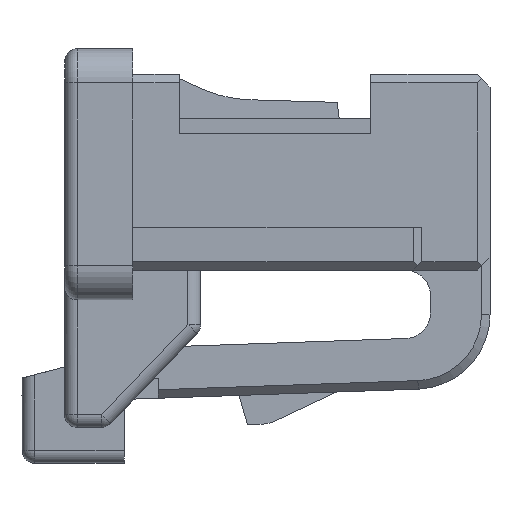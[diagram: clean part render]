
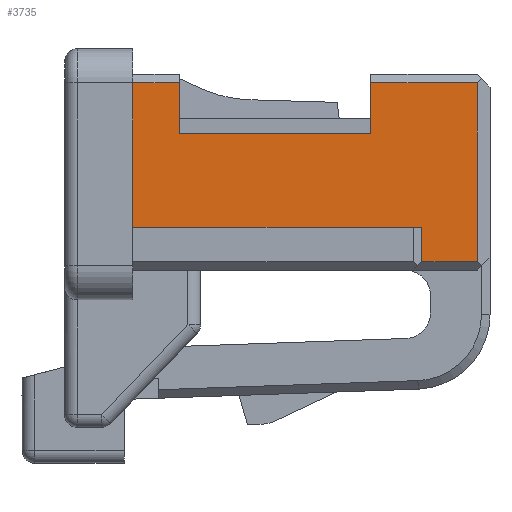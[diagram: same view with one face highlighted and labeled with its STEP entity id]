
A CAD part, left-side view. The second image highlights one B-rep face of the part: STEP entity #3735.
In plain terms, the highlighted planar face has unit normal (-1, 0, 0).
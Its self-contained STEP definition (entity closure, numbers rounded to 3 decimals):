
#59 = AXIS2_PLACEMENT_3D ( 'NONE', #7433, #16123, #2720 ) ;
#617 = ORIENTED_EDGE ( 'NONE', *, *, #10504, .F. ) ;
#942 = VERTEX_POINT ( 'NONE', #2935 ) ;
#1344 = LINE ( 'NONE', #27166, #8431 ) ;
#1412 = VECTOR ( 'NONE', #27769, 1000. ) ;
#2274 = VERTEX_POINT ( 'NONE', #16010 ) ;
#2519 = DIRECTION ( 'NONE',  ( 0., -1., 0. ) ) ;
#2720 = DIRECTION ( 'NONE',  ( 0., 0., 1. ) ) ;
#2935 = CARTESIAN_POINT ( 'NONE',  ( -4.19, -2.8, 1.075 ) ) ;
#3444 = VECTOR ( 'NONE', #2519, 1000. ) ;
#3735 = ADVANCED_FACE ( 'NONE', ( #9859 ), #26978, .T. ) ;
#4110 = VECTOR ( 'NONE', #24183, 1000. ) ;
#4328 = ORIENTED_EDGE ( 'NONE', *, *, #8657, .T. ) ;
#4790 = LINE ( 'NONE', #22050, #16471 ) ;
#4815 = EDGE_CURVE ( 'NONE', #20733, #12115, #4790, .T. ) ;
#5631 = DIRECTION ( 'NONE',  ( 0., 0., 1. ) ) ;
#5935 = VERTEX_POINT ( 'NONE', #25232 ) ;
#6074 = VECTOR ( 'NONE', #16903, 1000. ) ;
#6577 = VERTEX_POINT ( 'NONE', #23676 ) ;
#7246 = EDGE_CURVE ( 'NONE', #11245, #6577, #26059, .T. ) ;
#7433 = CARTESIAN_POINT ( 'NONE',  ( -4.19, 0., 1.175 ) ) ;
#7497 = DIRECTION ( 'NONE',  ( 0., 0., -1. ) ) ;
#8431 = VECTOR ( 'NONE', #5631, 1000. ) ;
#8646 = ORIENTED_EDGE ( 'NONE', *, *, #24535, .T. ) ;
#8657 = EDGE_CURVE ( 'NONE', #11245, #5935, #18933, .T. ) ;
#9053 = CARTESIAN_POINT ( 'NONE',  ( -4.19, 0., 1.075 ) ) ;
#9271 = EDGE_LOOP ( 'NONE', ( #13868, #21422, #21360, #4328, #20561, #10724, #617, #20898, #15170, #8646 ) ) ;
#9628 = CARTESIAN_POINT ( 'NONE',  ( -4.19, -3.4, -0.625 ) ) ;
#9859 = FACE_OUTER_BOUND ( 'NONE', #9271, .T. ) ;
#10304 = CARTESIAN_POINT ( 'NONE',  ( -4.19, 0., -0.625 ) ) ;
#10504 = EDGE_CURVE ( 'NONE', #2274, #20733, #21600, .T. ) ;
#10724 = ORIENTED_EDGE ( 'NONE', *, *, #4815, .F. ) ;
#10743 = CARTESIAN_POINT ( 'NONE',  ( -4.19, -3.4, -0.625 ) ) ;
#11245 = VERTEX_POINT ( 'NONE', #18324 ) ;
#12115 = VERTEX_POINT ( 'NONE', #9053 ) ;
#13179 = CARTESIAN_POINT ( 'NONE',  ( -4.19, -3.4, -1.025 ) ) ;
#13729 = VERTEX_POINT ( 'NONE', #27009 ) ;
#13868 = ORIENTED_EDGE ( 'NONE', *, *, #17815, .F. ) ;
#14078 = CARTESIAN_POINT ( 'NONE',  ( -4.19, -0.55, 0.475 ) ) ;
#14898 = CARTESIAN_POINT ( 'NONE',  ( -4.19, -4.05, -1.025 ) ) ;
#15170 = ORIENTED_EDGE ( 'NONE', *, *, #17194, .T. ) ;
#16010 = CARTESIAN_POINT ( 'NONE',  ( -4.19, -3.4, -0.625 ) ) ;
#16123 = DIRECTION ( 'NONE',  ( -1., 0., 0. ) ) ;
#16138 = EDGE_CURVE ( 'NONE', #12115, #5935, #26454, .T. ) ;
#16471 = VECTOR ( 'NONE', #24601, 1000. ) ;
#16903 = DIRECTION ( 'NONE',  ( 0., 0., 1. ) ) ;
#16936 = LINE ( 'NONE', #21638, #18240 ) ;
#17194 = EDGE_CURVE ( 'NONE', #27891, #13729, #16936, .T. ) ;
#17489 = EDGE_CURVE ( 'NONE', #2274, #27891, #18183, .T. ) ;
#17815 = EDGE_CURVE ( 'NONE', #942, #24983, #25474, .T. ) ;
#18183 = LINE ( 'NONE', #9628, #21917 ) ;
#18240 = VECTOR ( 'NONE', #27642, 1000. ) ;
#18324 = CARTESIAN_POINT ( 'NONE',  ( -4.19, -0.55, 0.475 ) ) ;
#18933 = LINE ( 'NONE', #14078, #1412 ) ;
#19173 = DIRECTION ( 'NONE',  ( 0., 1., 0. ) ) ;
#19765 = CARTESIAN_POINT ( 'NONE',  ( -4.19, 0., 1.075 ) ) ;
#20561 = ORIENTED_EDGE ( 'NONE', *, *, #16138, .F. ) ;
#20733 = VERTEX_POINT ( 'NONE', #10304 ) ;
#20898 = ORIENTED_EDGE ( 'NONE', *, *, #17489, .T. ) ;
#21278 = VECTOR ( 'NONE', #19173, 1000. ) ;
#21360 = ORIENTED_EDGE ( 'NONE', *, *, #7246, .F. ) ;
#21422 = ORIENTED_EDGE ( 'NONE', *, *, #23414, .F. ) ;
#21600 = LINE ( 'NONE', #10743, #21278 ) ;
#21638 = CARTESIAN_POINT ( 'NONE',  ( -4.19, -3.4, -1.025 ) ) ;
#21745 = LINE ( 'NONE', #14898, #6074 ) ;
#21917 = VECTOR ( 'NONE', #7497, 1000. ) ;
#22050 = CARTESIAN_POINT ( 'NONE',  ( -4.19, 0., -0.625 ) ) ;
#22065 = CARTESIAN_POINT ( 'NONE',  ( -4.19, -0.55, 0.475 ) ) ;
#23414 = EDGE_CURVE ( 'NONE', #6577, #942, #1344, .T. ) ;
#23676 = CARTESIAN_POINT ( 'NONE',  ( -4.19, -2.8, 0.475 ) ) ;
#24183 = DIRECTION ( 'NONE',  ( 0., -1., 0. ) ) ;
#24535 = EDGE_CURVE ( 'NONE', #13729, #24983, #21745, .T. ) ;
#24601 = DIRECTION ( 'NONE',  ( 0., 0., 1. ) ) ;
#24983 = VERTEX_POINT ( 'NONE', #26545 ) ;
#25208 = CARTESIAN_POINT ( 'NONE',  ( -4.19, -2.8, 1.075 ) ) ;
#25232 = CARTESIAN_POINT ( 'NONE',  ( -4.19, -0.55, 1.075 ) ) ;
#25474 = LINE ( 'NONE', #25208, #26470 ) ;
#26059 = LINE ( 'NONE', #22065, #3444 ) ;
#26454 = LINE ( 'NONE', #19765, #4110 ) ;
#26470 = VECTOR ( 'NONE', #27622, 1000. ) ;
#26545 = CARTESIAN_POINT ( 'NONE',  ( -4.19, -4.05, 1.075 ) ) ;
#26978 = PLANE ( 'NONE',  #59 ) ;
#27009 = CARTESIAN_POINT ( 'NONE',  ( -4.19, -4.05, -1.025 ) ) ;
#27166 = CARTESIAN_POINT ( 'NONE',  ( -4.19, -2.8, 0.475 ) ) ;
#27622 = DIRECTION ( 'NONE',  ( 0., -1., 0. ) ) ;
#27642 = DIRECTION ( 'NONE',  ( 0., -1., 0. ) ) ;
#27769 = DIRECTION ( 'NONE',  ( 0., 0., 1. ) ) ;
#27891 = VERTEX_POINT ( 'NONE', #13179 ) ;
